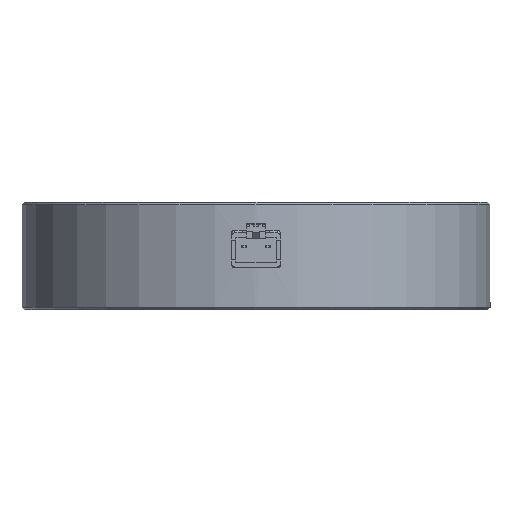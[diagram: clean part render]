
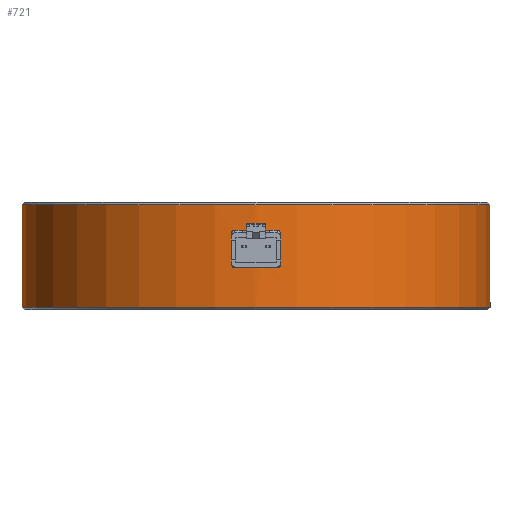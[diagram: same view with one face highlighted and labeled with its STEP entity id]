
A CAD part, front view. The second image highlights one B-rep face of the part: STEP entity #721.
In plain terms, the highlighted cylindrical face has radius 50 mm (diameter 100 mm), a full revolution.
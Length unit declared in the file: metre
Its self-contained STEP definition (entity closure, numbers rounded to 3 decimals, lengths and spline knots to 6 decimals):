
#721=ADVANCED_FACE('NONE',(#1994,#1995,#1996),#1997,.T.);
#1994=FACE_OUTER_BOUND('',#3666,.T.);
#1995=FACE_BOUND('',#3667,.T.);
#1996=FACE_OUTER_BOUND('',#3668,.T.);
#1997=CYLINDRICAL_SURFACE('',#3669,0.05);
#3666=EDGE_LOOP('',(#6579));
#3667=EDGE_LOOP('',(#6580));
#3668=EDGE_LOOP('',(#6581));
#3669=AXIS2_PLACEMENT_3D('',#6582,#6583,#6584);
#6579=ORIENTED_EDGE('',*,*,#8579,.T.);
#6580=ORIENTED_EDGE('',*,*,#8575,.T.);
#6581=ORIENTED_EDGE('',*,*,#8533,.T.);
#6582=CARTESIAN_POINT('',(0.,0.005,0.520928));
#6583=DIRECTION('',(0.,0.,1.0));
#6584=DIRECTION('',(-1.0,0.,0.));
#8533=EDGE_CURVE('NONE',#8783,#8783,#8784,.T.);
#8575=EDGE_CURVE('NONE',#8834,#8834,#8835,.T.);
#8579=EDGE_CURVE('NONE',#8839,#8839,#8840,.T.);
#8783=VERTEX_POINT('',#9044);
#8784=CIRCLE('',#9045,0.05);
#8834=VERTEX_POINT('',#9095);
#8835=B_SPLINE_CURVE_WITH_KNOTS('',3,(#9096,#9097,#9098,#9099,#9100,#9101,#9102,#9103,#9104,#9105,#9106,#9107,#9108,#9109,#9110,#9111,#9112,#9113,#9114,#9115,#9116,#9117,#9118,#9119,#9120,#9121,#9122,#9123,#9124,#9125,#9126,#9127,#9128,#9129,#9130,#9131,#9132,#9133,#9134,#9135,#9136,#9137,#9138,#9139,#9140,#9141,#9142,#9143,#9144,#9145,#9146,#9147,#9148,#9149,#9150,#9151,#9152,#9153),.UNSPECIFIED.,.T.,.F.,(2,2,2,2,2,2,2,2,2,2,2,2,2,2,2,2,2,2,2,2,2,2,2,2,2,2,2,2,2,2,2),(-0.000391,0.0,0.000391,0.000782,0.001172,0.001563,0.002345,0.003126,0.003517,0.003908,0.004298,0.004689,0.00508,0.005471,0.005861,0.006252,0.006643,0.007034,0.007425,0.007815,0.008597,0.009378,0.009769,0.01016,0.010551,0.010941,0.011332,0.011723,0.012114,0.012504,0.012895),.UNSPECIFIED.);
#8839=VERTEX_POINT('',#9157);
#8840=CIRCLE('',#9158,0.05);
#9044=CARTESIAN_POINT('',(-0.05,0.005,0.0175));
#9045=AXIS2_PLACEMENT_3D('',#9371,#9372,#9373);
#9095=CARTESIAN_POINT('',(-0.002,-0.04496,0.03));
#9096=CARTESIAN_POINT('',(-0.002,-0.04496,0.029868));
#9097=CARTESIAN_POINT('',(-0.002,-0.04496,0.030132));
#9098=CARTESIAN_POINT('',(-0.001987,-0.044961,0.030262));
#9099=CARTESIAN_POINT('',(-0.001936,-0.044963,0.030518));
#9100=CARTESIAN_POINT('',(-0.001898,-0.044964,0.030645));
#9101=CARTESIAN_POINT('',(-0.001797,-0.044968,0.030887));
#9102=CARTESIAN_POINT('',(-0.001736,-0.04497,0.031002));
#9103=CARTESIAN_POINT('',(-0.001591,-0.044975,0.031219));
#9104=CARTESIAN_POINT('',(-0.001506,-0.044977,0.031322));
#9105=CARTESIAN_POINT('',(-0.00123,-0.044985,0.031599));
#9106=CARTESIAN_POINT('',(-0.001007,-0.04499,0.031748));
#9107=CARTESIAN_POINT('',(-0.000525,-0.044998,0.031947));
#9108=CARTESIAN_POINT('',(-0.000262,-0.045,0.032));
#9109=CARTESIAN_POINT('',(0.000129,-0.045,0.032));
#9110=CARTESIAN_POINT('',(0.000262,-0.044999,0.031987));
#9111=CARTESIAN_POINT('',(0.000518,-0.044997,0.031936));
#9112=CARTESIAN_POINT('',(0.000643,-0.044996,0.031898));
#9113=CARTESIAN_POINT('',(0.000885,-0.044992,0.031798));
#9114=CARTESIAN_POINT('',(0.001002,-0.04499,0.031736));
#9115=CARTESIAN_POINT('',(0.001219,-0.044985,0.031591));
#9116=CARTESIAN_POINT('',(0.00132,-0.044983,0.031508));
#9117=CARTESIAN_POINT('',(0.001507,-0.044977,0.031322));
#9118=CARTESIAN_POINT('',(0.00159,-0.044975,0.031221));
#9119=CARTESIAN_POINT('',(0.001734,-0.04497,0.031004));
#9120=CARTESIAN_POINT('',(0.001797,-0.044968,0.030887));
#9121=CARTESIAN_POINT('',(0.001898,-0.044964,0.030645));
#9122=CARTESIAN_POINT('',(0.001935,-0.044963,0.030521));
#9123=CARTESIAN_POINT('',(0.001987,-0.044961,0.030264));
#9124=CARTESIAN_POINT('',(0.002,-0.04496,0.030132));
#9125=CARTESIAN_POINT('',(0.002,-0.04496,0.029868));
#9126=CARTESIAN_POINT('',(0.001987,-0.044961,0.029738));
#9127=CARTESIAN_POINT('',(0.001936,-0.044963,0.029482));
#9128=CARTESIAN_POINT('',(0.001898,-0.044964,0.029355));
#9129=CARTESIAN_POINT('',(0.001797,-0.044968,0.029113));
#9130=CARTESIAN_POINT('',(0.001736,-0.04497,0.028998));
#9131=CARTESIAN_POINT('',(0.001591,-0.044975,0.028781));
#9132=CARTESIAN_POINT('',(0.001506,-0.044977,0.028678));
#9133=CARTESIAN_POINT('',(0.00123,-0.044985,0.028401));
#9134=CARTESIAN_POINT('',(0.001007,-0.04499,0.028252));
#9135=CARTESIAN_POINT('',(0.000525,-0.044998,0.028053));
#9136=CARTESIAN_POINT('',(0.000262,-0.045,0.028));
#9137=CARTESIAN_POINT('',(-0.000129,-0.045,0.028));
#9138=CARTESIAN_POINT('',(-0.000262,-0.044999,0.028013));
#9139=CARTESIAN_POINT('',(-0.000518,-0.044997,0.028064));
#9140=CARTESIAN_POINT('',(-0.000643,-0.044996,0.028102));
#9141=CARTESIAN_POINT('',(-0.000885,-0.044992,0.028202));
#9142=CARTESIAN_POINT('',(-0.001002,-0.04499,0.028264));
#9143=CARTESIAN_POINT('',(-0.001219,-0.044985,0.028409));
#9144=CARTESIAN_POINT('',(-0.00132,-0.044983,0.028492));
#9145=CARTESIAN_POINT('',(-0.001507,-0.044977,0.028678));
#9146=CARTESIAN_POINT('',(-0.00159,-0.044975,0.028779));
#9147=CARTESIAN_POINT('',(-0.001734,-0.04497,0.028996));
#9148=CARTESIAN_POINT('',(-0.001797,-0.044968,0.029113));
#9149=CARTESIAN_POINT('',(-0.001898,-0.044964,0.029355));
#9150=CARTESIAN_POINT('',(-0.001935,-0.044963,0.029479));
#9151=CARTESIAN_POINT('',(-0.001987,-0.044961,0.029736));
#9152=CARTESIAN_POINT('',(-0.002,-0.04496,0.029868));
#9153=CARTESIAN_POINT('',(-0.002,-0.04496,0.030132));
#9157=CARTESIAN_POINT('',(0.05,0.005,0.0395));
#9158=AXIS2_PLACEMENT_3D('',#9416,#9417,#9418);
#9371=CARTESIAN_POINT('',(0.,0.005,0.0175));
#9372=DIRECTION('',(0.,0.,1.0));
#9373=DIRECTION('',(-1.0,0.,0.));
#9416=CARTESIAN_POINT('',(0.,0.005,0.0395));
#9417=DIRECTION('',(0.,0.,-1.0));
#9418=DIRECTION('',(1.0,0.,0.));
